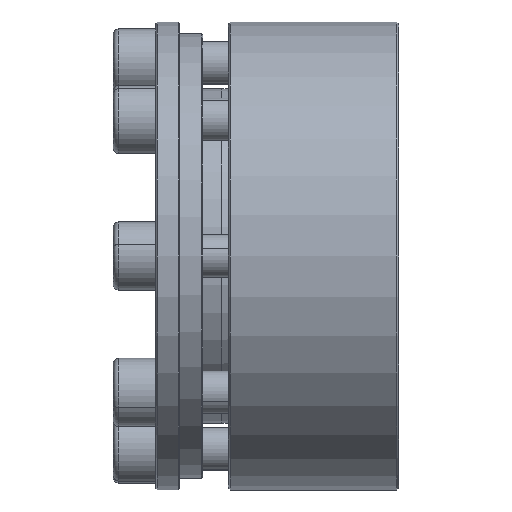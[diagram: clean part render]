
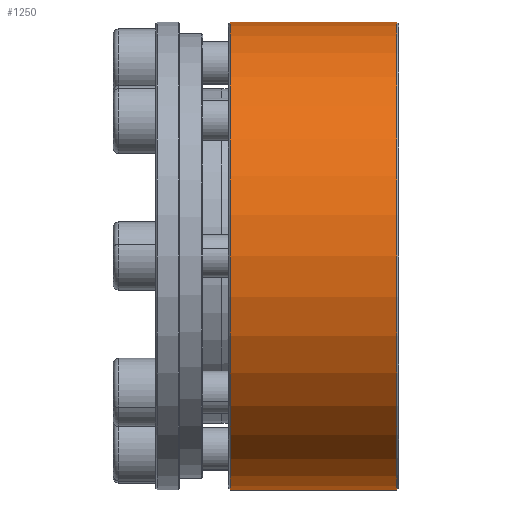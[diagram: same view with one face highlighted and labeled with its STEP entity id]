
A CAD part, front view. The second image highlights one B-rep face of the part: STEP entity #1250.
In plain terms, the highlighted cylindrical face has radius 54.94 mm (diameter 109.88 mm), a partial arc.
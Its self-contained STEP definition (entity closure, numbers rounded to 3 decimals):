
#182 = DIRECTION ( 'NONE',  ( 0., 0., 1. ) ) ;
#296 = EDGE_CURVE ( 'NONE', #6626, #4370, #6504, .T. ) ;
#520 = EDGE_CURVE ( 'NONE', #6626, #6618, #7186, .T. ) ;
#780 = EDGE_CURVE ( 'NONE', #4370, #8006, #4117, .T. ) ;
#1136 = ORIENTED_EDGE ( 'NONE', *, *, #296, .T. ) ;
#1137 = AXIS2_PLACEMENT_3D ( 'NONE', #4236, #6172, #182 ) ;
#1245 = ORIENTED_EDGE ( 'NONE', *, *, #780, .T. ) ;
#1250 = ADVANCED_FACE ( 'NONE', ( #6313 ), #2229, .T. ) ;
#1329 = ORIENTED_EDGE ( 'NONE', *, *, #6417, .T. ) ;
#1590 = CIRCLE ( 'NONE', #6589, 54.94 ) ;
#1641 = DIRECTION ( 'NONE',  ( -1., 0., 0. ) ) ;
#2219 = CARTESIAN_POINT ( 'NONE',  ( -88.766, 26.04, -54.94 ) ) ;
#2229 = CYLINDRICAL_SURFACE ( 'NONE', #1137, 54.94 ) ;
#2701 = DIRECTION ( 'NONE',  ( -1., 0., 0. ) ) ;
#2784 = CARTESIAN_POINT ( 'NONE',  ( -88.366, 26.04, 0. ) ) ;
#4117 = LINE ( 'NONE', #5530, #6553 ) ;
#4236 = CARTESIAN_POINT ( 'NONE',  ( -88.766, 26.04, 0. ) ) ;
#4259 = CARTESIAN_POINT ( 'NONE',  ( -49.166, 26.04, -54.94 ) ) ;
#4370 = VERTEX_POINT ( 'NONE', #8406 ) ;
#5343 = DIRECTION ( 'NONE',  ( 1., 0., 0. ) ) ;
#5530 = CARTESIAN_POINT ( 'NONE',  ( -88.766, 26.04, 54.94 ) ) ;
#6024 = ORIENTED_EDGE ( 'NONE', *, *, #520, .F. ) ;
#6172 = DIRECTION ( 'NONE',  ( -1., 0., 0. ) ) ;
#6313 = FACE_OUTER_BOUND ( 'NONE', #8790, .T. ) ;
#6417 = EDGE_CURVE ( 'NONE', #8006, #6618, #1590, .T. ) ;
#6477 = VECTOR ( 'NONE', #1641, 1000. ) ;
#6504 = CIRCLE ( 'NONE', #7363, 54.94 ) ;
#6553 = VECTOR ( 'NONE', #6811, 1000. ) ;
#6589 = AXIS2_PLACEMENT_3D ( 'NONE', #2784, #5343, #8074 ) ;
#6618 = VERTEX_POINT ( 'NONE', #7042 ) ;
#6626 = VERTEX_POINT ( 'NONE', #4259 ) ;
#6634 = CARTESIAN_POINT ( 'NONE',  ( -88.366, 26.04, 54.94 ) ) ;
#6811 = DIRECTION ( 'NONE',  ( -1., 0., 0. ) ) ;
#7042 = CARTESIAN_POINT ( 'NONE',  ( -88.366, 26.04, -54.94 ) ) ;
#7186 = LINE ( 'NONE', #2219, #6477 ) ;
#7363 = AXIS2_PLACEMENT_3D ( 'NONE', #8257, #2701, #8163 ) ;
#8006 = VERTEX_POINT ( 'NONE', #6634 ) ;
#8074 = DIRECTION ( 'NONE',  ( 0., 0., -1. ) ) ;
#8163 = DIRECTION ( 'NONE',  ( 0., 0., 1. ) ) ;
#8257 = CARTESIAN_POINT ( 'NONE',  ( -49.166, 26.04, 0. ) ) ;
#8406 = CARTESIAN_POINT ( 'NONE',  ( -49.166, 26.04, 54.94 ) ) ;
#8790 = EDGE_LOOP ( 'NONE', ( #6024, #1136, #1245, #1329 ) ) ;
